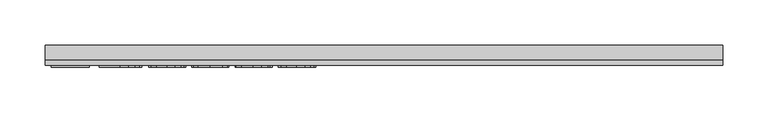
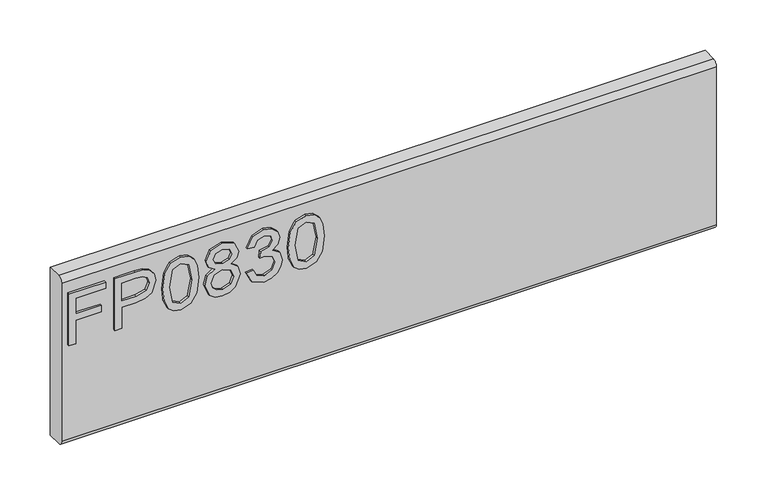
"""IFC4 building model written with IfcOpenShell, lengths in millimetres: furniture geometry."""

from ifc_helpers import new_model, si_unit, frame, origin, place, context, project, spatial, polyline, circle_curve, outline, extrude, source, transform, mapped, element, save
from ifc_brep_helpers import plane_surface, cylinder_surface, advanced_brep


def furniture_a09f8145(model_context):
    return source(origin(), model_context, "Body", "SolidModel", [
        extrude(outline(polyline([(679.45, -367.8115385), (679.45, -359.9961538), (707.7807692, -359.9961538), (707.7807692, -330.6884615), (715.5961538, -330.6884615), (715.5961538, -359.9961538), (734.1576923, -359.9961538), (734.1576923, -325.8038462), (741.9730769, -325.8038462), (741.9730769, -367.8115385), (679.45, -367.8115385)])), frame((0.0, -15.0812439, 0.0), z_axis=(0.0, 1.0, 0.0), x_axis=(0.0, 0.0, 1.0)), (0.0, 0.0, 1.0), 2.38125),
        extrude(outline(polyline([(679.45, -315.0576923), (679.45, -307.2423077), (704.85, -307.2423077), (704.85, -291.3520433), (706.2314303, -280.2490835), (710.3757212, -273.195012), (723.8847356, -268.1653846), (732.4099159, -270.0276442), (738.4546274, -274.9504207), (741.3777644, -282.5444712), (741.9730769, -291.8862981), (741.9730769, -315.0576923), (679.45, -315.0576923)]), holes=[polyline([(712.6653846, -307.2423077), (734.1576923, -307.2423077), (734.1576923, -291.0772837), (733.6234375, -283.261899), (730.0820913, -277.9880409), (723.609976, -275.9807692), (715.5350962, -279.3847356), (712.6653846, -290.8941106), (712.6653846, -307.2423077)])]), frame((0.0, -15.0812439, 0.0), z_axis=(0.0, 1.0, 0.0), x_axis=(0.0, 0.0, 1.0)), (0.0, 0.0, 1.0), 2.38125),
        extrude(outline(polyline([(710.2078125, -260.35), (695.000631, -258.7930288), (684.4262019, -254.1221154), (679.9613582, -247.9552885), (678.4730769, -239.8346154), (681.8999399, -228.3939303), (692.295012, -221.5936298), (710.2078125, -219.3192308), (724.8998197, -220.7388221), (734.1500601, -224.4022837), (739.9581731, -230.7064904), (741.9730769, -239.8346154), (738.5691106, -251.2295072), (728.1969351, -258.0527043), (710.2078125, -260.35)]), holes=[polyline([(710.2230769, -252.5346154), (729.9752404, -248.7490385), (734.1576923, -239.9262019), (729.4104567, -230.6759615), (710.2230769, -227.1346154), (690.8296274, -230.7980769), (686.2884615, -239.8346154), (690.814363, -248.8711538), (710.2230769, -252.5346154)])]), frame((0.0, -15.0812439, 0.0), z_axis=(0.0, 1.0, 0.0), x_axis=(0.0, 0.0, 1.0)), (0.0, 0.0, 1.0), 2.38125),
        extrude(outline(polyline([(713.8865385, -201.0935096), (708.2081731, -209.5194712), (697.8588942, -212.4807692), (684.0216947, -206.8329327), (679.8602314, -200.2921274), (678.4730769, -191.9653846), (679.8545072, -183.6386418), (683.9987981, -177.0978365), (697.6451923, -171.45), (707.7578726, -174.2968149), (713.8865385, -182.6082933), (718.7177284, -175.6858774), (726.0828125, -173.4038462), (737.3479567, -178.5326923), (741.9730769, -192.0722356), (737.4548077, -205.4896635), (726.2965144, -210.5269231), (718.740625, -208.214363), (713.8865385, -201.0935096)]), holes=[polyline([(726.0675481, -202.7115385), (731.7764423, -199.8952524), (734.1576923, -191.9653846), (731.7230168, -184.0584135), (725.7164663, -181.2192308), (719.9159856, -183.9668269), (717.55, -191.8737981), (719.93125, -199.9410457), (726.0675481, -202.7115385)]), polyline([(698.1336538, -204.6653846), (706.4222356, -201.360637), (709.7346154, -192.1638221), (706.3764423, -182.6998798), (697.8894231, -179.2653846), (689.5626803, -182.5930288), (686.2884615, -191.9043269), (687.8454327, -198.7427885), (692.2492188, -203.3602764), (698.1336538, -204.6653846)])]), frame((0.0, -15.0812439, 0.0), z_axis=(0.0, 1.0, 0.0), x_axis=(0.0, 0.0, 1.0)), (0.0, 0.0, 1.0), 2.38125),
        extrude(outline(polyline([(696.0576923, -164.6115385), (683.3729567, -158.3989183), (678.4730769, -144.6914663), (679.9079327, -136.3380108), (684.2125, -129.5644231), (690.5777644, -125.0766827), (698.1947115, -123.5807692), (708.3608173, -126.5725962), (713.7033654, -135.0901442), (718.8780048, -128.6790865), (726.0828125, -126.5115385), (733.966887, -128.7935697), (739.8284255, -135.3878005), (741.9730769, -144.8135817), (737.6227163, -157.2388221), (725.3653846, -163.6346154), (724.3884615, -155.8192308), (731.7153846, -151.9878606), (734.1576923, -144.5388221), (731.7382813, -137.1813702), (725.6248798, -134.3269231), (718.7253606, -138.2651442), (716.5730769, -148.3854567), (708.7576923, -149.2555288), (709.6125, -143.775601), (706.4146034, -134.8917067), (698.3320913, -131.3961538), (689.7534856, -134.9222356), (686.2884615, -144.4167067), (688.8070913, -152.4839543), (697.0346154, -156.7961538), (696.0576923, -164.6115385)])), frame((0.0, -15.0812439, 0.0), z_axis=(0.0, 1.0, 0.0), x_axis=(0.0, 0.0, 1.0)), (0.0, 0.0, 1.0), 2.38125),
        extrude(outline(polyline([(710.2078125, -116.7423077), (695.000631, -115.1853365), (684.4262019, -110.5144231), (679.9613582, -104.3475962), (678.4730769, -96.2269231), (681.8999399, -84.786238), (692.295012, -77.9859375), (710.2078125, -75.7115385), (724.8998197, -77.1311298), (734.1500601, -80.7945913), (739.9581731, -87.0987981), (741.9730769, -96.2269231), (738.5691106, -107.6218149), (728.1969351, -114.445012), (710.2078125, -116.7423077)]), holes=[polyline([(710.2230769, -108.9269231), (729.9752404, -105.1413462), (734.1576923, -96.3185096), (729.4104567, -87.0682692), (710.2230769, -83.5269231), (690.8296274, -87.1903846), (686.2884615, -96.2269231), (690.814363, -105.2634615), (710.2230769, -108.9269231)])]), frame((0.0, -15.0812439, 0.0), z_axis=(0.0, 1.0, 0.0), x_axis=(0.0, 0.0, 1.0)), (0.0, 0.0, 1.0), 2.38125),
        advanced_brep(
        [(374.65, 9.5250061, 762.0), (374.65, -6.7309939, 762.0), (374.65, -12.6999939, 756.031), (374.65, -12.6999939, 564.769), (374.65, -6.7309939, 558.8), (374.65, 9.5250061, 558.8), (-374.65, 9.5250061, 762.0), (-374.65, 9.5250061, 558.8), (-374.65, -6.7309939, 558.8), (-374.65, -12.6999939, 564.769), (-374.65, -12.6999939, 756.0310121), (-374.65, -6.7309939, 762.0)],
        [
            (0, 1),
            (1, 2, circle_curve(frame((374.65, -6.7309939, 756.031), z_axis=(1.0, 0.0, 0.0), x_axis=(0.0, 1.0, 0.0)), 5.969)),
            (2, 3),
            (3, 4, circle_curve(frame((374.65, -6.7309939, 564.769), z_axis=(1.0, 0.0, 0.0), x_axis=(0.0, 1.0, 0.0)), 5.969)),
            (4, 5),
            (5, 0),
            (6, 7),
            (7, 8),
            (8, 9, circle_curve(frame((-374.65, -6.7309939, 564.769), z_axis=(-1.0, 0.0, 0.0), x_axis=(0.0, 1.0, 0.0)), 5.969)),
            (9, 10),
            (10, 11, circle_curve(frame((-374.65, -6.7309939, 756.031), z_axis=(-1.0, 0.0, 0.0), x_axis=(0.0, 1.0, 0.0)), 5.969)),
            (11, 6),
            (0, 6),
            (11, 1),
            (10, 2),
            (9, 3),
            (8, 4),
            (7, 5),
        ],
        [
            plane_surface(frame((374.65, -6.7309939, 762.0), z_axis=(1.0, 0.0, 0.0), x_axis=(0.0, -1.0, 0.0))),
            plane_surface(frame((-374.65, -6.7309939, 762.0), z_axis=(-1.0, 0.0, 0.0), x_axis=(0.0, 1.0, 0.0))),
            plane_surface(frame((374.65, 9.5250061, 762.0), z_axis=(0.0, 0.0, 1.0), x_axis=(-1.0, 0.0, 0.0))),
            cylinder_surface(frame((-374.65, -6.7309939, 756.031), z_axis=(1.0, 0.0, 0.0), x_axis=(0.0, 1.0, 0.0)), 5.969),
            plane_surface(frame((374.65, -12.6999939, 756.0310121), z_axis=(0.0, -1.0, 0.0), x_axis=(-1.0, 0.0, 0.0))),
            cylinder_surface(frame((-374.65, -6.7309939, 564.769), z_axis=(1.0, 0.0, 0.0), x_axis=(0.0, 1.0, 0.0)), 5.969),
            plane_surface(frame((374.65, -6.7309939, 558.8), z_axis=(0.0, 0.0, -1.0), x_axis=(-1.0, 0.0, 0.0))),
            plane_surface(frame((374.65, 9.5250061, 558.8), z_axis=(0.0, 1.0, 0.0), x_axis=(-1.0, 0.0, 0.0))),
        ],
        [
            (0, [[1, 2, 3, 4, 5, 6]]),
            (1, [[7, 8, 9, 10, 11, 12]]),
            (2, [[-1, 13, -12, 14]]),
            (3, [[-2, -14, -11, 15]]),
            (4, [[-3, -15, -10, 16]]),
            (5, [[-4, -16, -9, 17]]),
            (6, [[-5, -17, -8, 18]]),
            (7, [[-6, -18, -7, -13]]),
        ],
    ),
    ])


if __name__ == "__main__":
    model = new_model("IFC4")
    model_context = context("Model", 3, world=origin())
    ifc_project = project(units=[si_unit("LENGTHUNIT", "METRE", prefix="MILLI")], contexts=[model_context])
    site = spatial("IfcSite", under=ifc_project)
    building = spatial("IfcBuilding", under=site)
    placement = place(None, origin())
    furniture_shape = furniture_a09f8145(model_context)
    element("IfcFurniture", 1, ObjectType="HermanMiller_Ethospace_E1420_FaceTile : Ptd 08\"H x 30\"W", at=placement, inside=building, context=model_context, shape_type="MappedRepresentation", body=[
        mapped(furniture_shape, transform((0.0, 0.0, 0.0), x_axis=(1.0, 0.0, 0.0), y_axis=(0.0, 1.0, 0.0), z_axis=(0.0, 0.0, 1.0))),
    ])
    save(model, "model.ifc")
